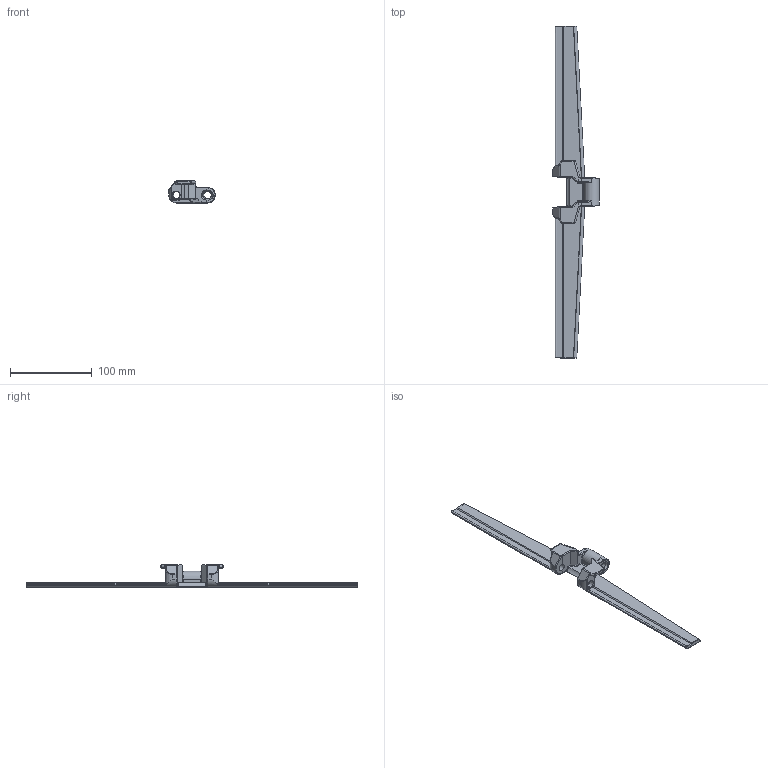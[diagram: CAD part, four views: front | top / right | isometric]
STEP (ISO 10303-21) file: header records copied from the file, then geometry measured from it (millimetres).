
FILE_DESCRIPTION((''),'2;1');
FILE_NAME('P1655','2023-03-17T09:58:20',('m.tranberg-hansen'),(''),'CREO PARAMETRIC BY PTC INC, 2022281','CREO PARAMETRIC BY PTC INC, 2022281','');
FILE_SCHEMA(('AUTOMOTIVE_DESIGN { 1 0 10303 214 1 1 1 1 }'));
Length unit declared in the file: millimetre
Products named in the file (1): P1655
Bounding box: 57.48 x 406.35 x 27 mm (x, y, z)
Volume: 75530.6 mm3; surface area: 36187.9 mm2
Topology: 1 solids, 1 shells, 287 faces, 707 edges, 418 vertices
Faces by surface type: cylinder 119, bspline 78, plane 62, torus 22, sphere 4, cone 2
Entity records: 20867 total; most frequent: CARTESIAN_POINT 12598, ORIENTED_EDGE 1414, DIRECTION 1046, PRESENTATION_STYLE_ASSIGNMENT 710, STYLED_ITEM 708, CURVE_STYLE 707, EDGE_CURVE 707, VERTEX_POINT 418
